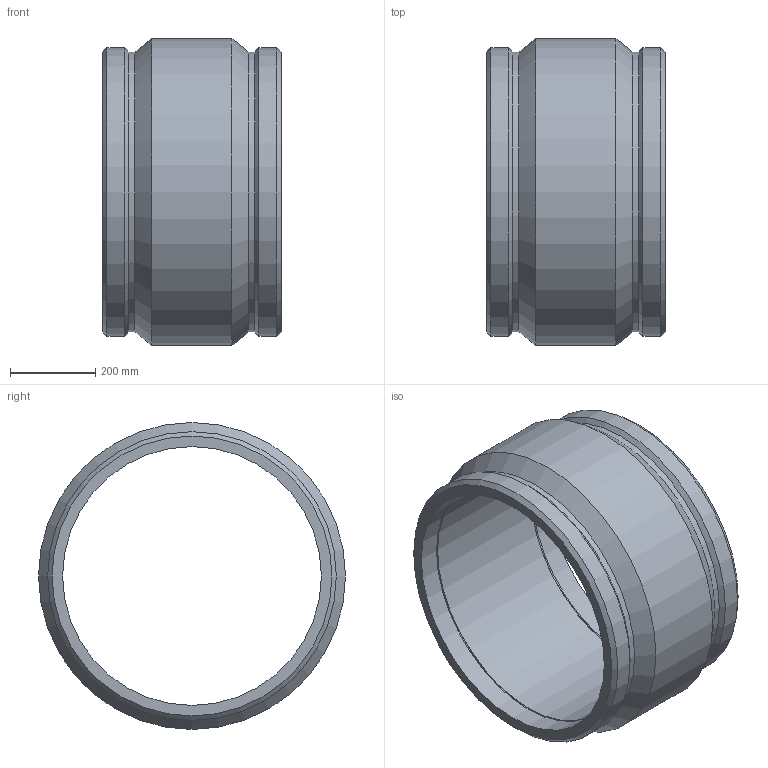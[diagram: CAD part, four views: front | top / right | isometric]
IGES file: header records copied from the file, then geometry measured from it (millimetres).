
Global section: file name: 5901B003240.ipt; native system: Autodesk Inventor 2019; preprocessor: unknown; author: KIM; date: 20210830.100901; units: inch
Bounding box: 419.1 x 719.84 x 719.84 mm (x, y, z)
Volume: 38261209.5 mm3; surface area: 1899762.8 mm2
Topology: 1 solids, 1 shells, 20 faces, 44 edges, 28 vertices
Faces by surface type: cone 6, cylinder 5, revolution 5, plane 4
Full cylindrical faces by diameter (mm): 656.346 x2, 676.646 x2, 719.836 x1
